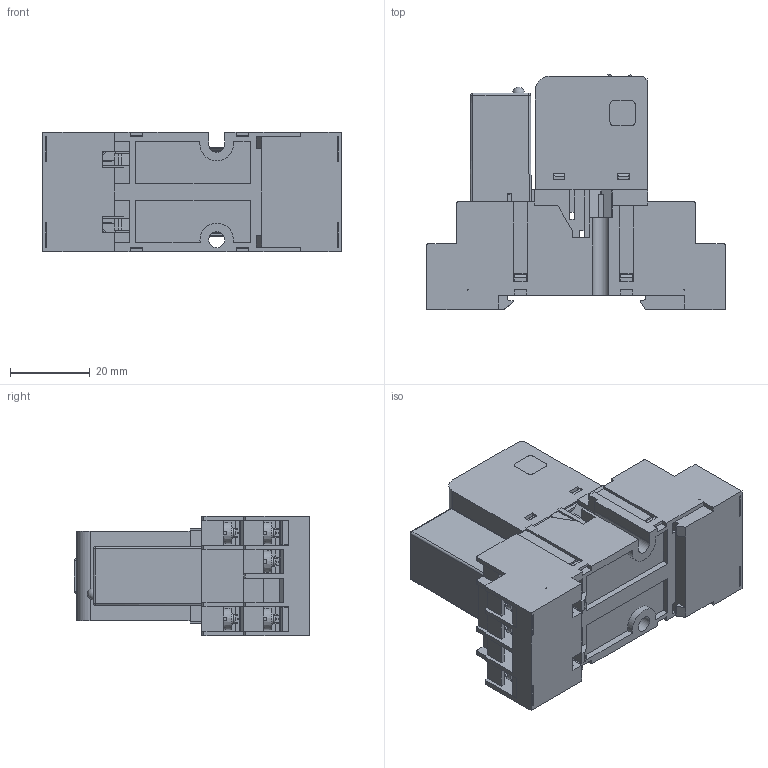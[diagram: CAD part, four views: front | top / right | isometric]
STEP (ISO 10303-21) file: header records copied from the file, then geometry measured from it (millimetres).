
FILE_DESCRIPTION(('STEP AP214'), '1');
FILE_NAME('Ðåëå ìîäóëüíîå ÐÏ30ÍÌ-003 (íà ïîêàç)', '', ('UNSPECIFIED'), ('UNSPECIFIED'), 'ASCON STEP Converter 1.6', 'ASCON Math Kernel', '');
FILE_SCHEMA(('AUTOMOTIVE_DESIGN { 1 0 10303 214 3 1 1}'));
Length unit declared in the file: millimetre
Bounding box: 74.9 x 59 x 30 mm (x, y, z)
Volume: 22121.5 mm3; surface area: 40160.4 mm2
Topology: 15 solids, 15 shells, 3465 faces, 9801 edges, 6280 vertices
Faces by surface type: plane 2559, cylinder 555, torus 154, bspline 118, cone 78, sphere 1
Full cylindrical faces by diameter (mm): 0.3 x2, 0.6 x2, 2.3 x11, 3 x24, 3.2 x1, 3.54 x11, 4 x1, 4.5 x14
Entity records: 158844 total; most frequent: CARTESIAN_POINT 43964, ORIENTED_EDGE 19346, DIRECTION 16136, EDGE_CURVE 9673, LINE 6914, VECTOR 6914, VERTEX_POINT 6279, AXIS2_PLACEMENT_3D 4611
